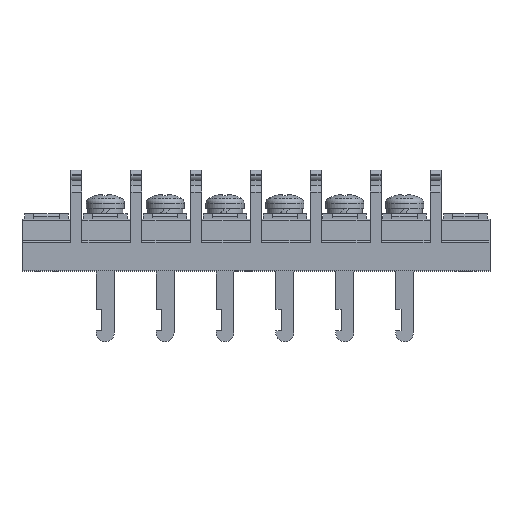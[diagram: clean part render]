
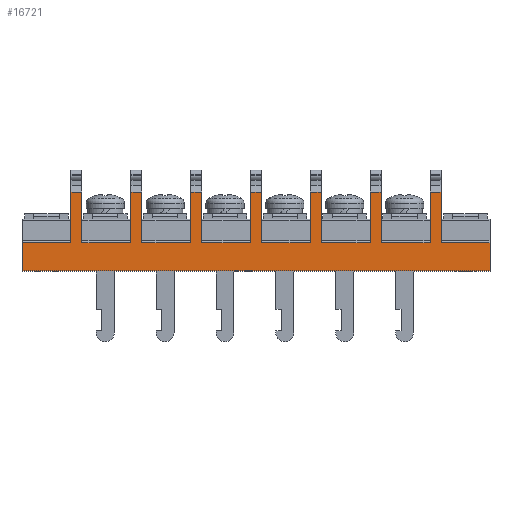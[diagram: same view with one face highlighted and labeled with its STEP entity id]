
A CAD part, top view. The second image highlights one B-rep face of the part: STEP entity #16721.
In plain terms, the highlighted planar face has unit normal (0, 0, 1).
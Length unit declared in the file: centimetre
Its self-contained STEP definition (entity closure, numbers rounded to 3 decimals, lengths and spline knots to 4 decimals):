
#1095=VERTEX_POINT('',#21165);
#1096=VERTEX_POINT('',#21167);
#1113=VERTEX_POINT('',#21201);
#1114=VERTEX_POINT('',#21203);
#1490=VERTEX_POINT('',#22828);
#1500=VERTEX_POINT('',#22848);
#1503=VERTEX_POINT('',#22875);
#1505=VERTEX_POINT('',#22879);
#1550=VERTEX_POINT('',#22984);
#1551=VERTEX_POINT('',#22986);
#1567=VERTEX_POINT('',#23023);
#1925=VERTEX_POINT('',#24609);
#1927=VERTEX_POINT('',#24612);
#2042=VERTEX_POINT('',#24995);
#2076=VERTEX_POINT('',#25079);
#2077=VERTEX_POINT('',#25081);
#2092=VERTEX_POINT('',#25115);
#2188=VERTEX_POINT('',#25465);
#2222=VERTEX_POINT('',#25549);
#2223=VERTEX_POINT('',#25551);
#2238=VERTEX_POINT('',#25585);
#2334=VERTEX_POINT('',#25935);
#2368=VERTEX_POINT('',#26019);
#2369=VERTEX_POINT('',#26021);
#2384=VERTEX_POINT('',#26055);
#2480=VERTEX_POINT('',#26405);
#2514=VERTEX_POINT('',#26489);
#2515=VERTEX_POINT('',#26491);
#2530=VERTEX_POINT('',#26525);
#2626=VERTEX_POINT('',#26875);
#2650=VERTEX_POINT('',#26945);
#2651=VERTEX_POINT('',#26948);
#2767=VECTOR('',#17533,1.);
#2780=VECTOR('',#17555,1.);
#2792=VECTOR('',#17592,1.);
#3235=VECTOR('',#18221,1.);
#3237=VECTOR('',#18229,1.);
#3247=VECTOR('',#18256,1.);
#3284=VECTOR('',#18333,1.);
#3296=VECTOR('',#18365,1.);
#3298=VECTOR('',#18368,1.);
#3735=VECTOR('',#18983,1.);
#3751=VECTOR('',#19024,1.);
#3849=VECTOR('',#19281,1.);
#3879=VECTOR('',#19345,1.);
#3890=VECTOR('',#19374,1.);
#3892=VECTOR('',#19377,1.);
#3994=VECTOR('',#19649,1.);
#4024=VECTOR('',#19713,1.);
#4035=VECTOR('',#19742,1.);
#4037=VECTOR('',#19745,1.);
#4139=VECTOR('',#20017,1.);
#4169=VECTOR('',#20081,1.);
#4180=VECTOR('',#20110,1.);
#4182=VECTOR('',#20113,1.);
#4284=VECTOR('',#20385,1.);
#4314=VECTOR('',#20449,1.);
#4325=VECTOR('',#20478,1.);
#4327=VECTOR('',#20481,1.);
#4429=VECTOR('',#20753,1.);
#4454=VECTOR('',#20814,1.);
#4455=VECTOR('',#20815,1.);
#4461=VECTOR('',#20826,1.);
#4462=VECTOR('',#20828,1.);
#4570=LINE('',#21166,#2767);
#4583=LINE('',#21202,#2780);
#4595=LINE('',#21245,#2792);
#5038=LINE('',#22849,#3235);
#5040=LINE('',#22855,#3237);
#5050=LINE('',#22880,#3247);
#5087=LINE('',#22985,#3284);
#5099=LINE('',#23024,#3296);
#5101=LINE('',#23027,#3298);
#5538=LINE('',#24611,#3735);
#5554=LINE('',#24653,#3751);
#5652=LINE('',#24996,#3849);
#5682=LINE('',#25080,#3879);
#5693=LINE('',#25116,#3890);
#5695=LINE('',#25119,#3892);
#5797=LINE('',#25466,#3994);
#5827=LINE('',#25550,#4024);
#5838=LINE('',#25586,#4035);
#5840=LINE('',#25589,#4037);
#5942=LINE('',#25936,#4139);
#5972=LINE('',#26020,#4169);
#5983=LINE('',#26056,#4180);
#5985=LINE('',#26059,#4182);
#6087=LINE('',#26406,#4284);
#6117=LINE('',#26490,#4314);
#6128=LINE('',#26526,#4325);
#6130=LINE('',#26529,#4327);
#6232=LINE('',#26876,#4429);
#6257=LINE('',#26946,#4454);
#6258=LINE('',#26947,#4455);
#6264=LINE('',#26963,#4461);
#6265=LINE('',#26965,#4462);
#6396=EDGE_CURVE('',#1096,#1095,#4570,.T.);
#6414=EDGE_CURVE('',#1114,#1113,#4583,.T.);
#6438=EDGE_CURVE('',#1096,#1113,#4595,.T.);
#6996=EDGE_CURVE('',#1490,#1500,#5038,.T.);
#6999=EDGE_CURVE('',#1114,#1500,#5040,.T.);
#7011=EDGE_CURVE('',#1505,#1503,#5050,.T.);
#7063=EDGE_CURVE('',#1551,#1550,#5087,.T.);
#7085=EDGE_CURVE('',#1505,#1567,#5099,.T.);
#7087=EDGE_CURVE('',#1551,#1567,#5101,.T.);
#7635=EDGE_CURVE('',#1927,#1925,#5538,.T.);
#7656=EDGE_CURVE('',#1550,#1927,#5554,.T.);
#7808=EDGE_CURVE('',#2042,#1095,#5652,.T.);
#7850=EDGE_CURVE('',#2077,#2076,#5682,.T.);
#7870=EDGE_CURVE('',#2042,#2092,#5693,.T.);
#7872=EDGE_CURVE('',#2077,#2092,#5695,.T.);
#8026=EDGE_CURVE('',#2188,#2076,#5797,.T.);
#8068=EDGE_CURVE('',#2223,#2222,#5827,.T.);
#8088=EDGE_CURVE('',#2188,#2238,#5838,.T.);
#8090=EDGE_CURVE('',#2223,#2238,#5840,.T.);
#8244=EDGE_CURVE('',#2334,#2222,#5942,.T.);
#8286=EDGE_CURVE('',#2369,#2368,#5972,.T.);
#8306=EDGE_CURVE('',#2334,#2384,#5983,.T.);
#8308=EDGE_CURVE('',#2369,#2384,#5985,.T.);
#8462=EDGE_CURVE('',#2480,#2368,#6087,.T.);
#8504=EDGE_CURVE('',#2515,#2514,#6117,.T.);
#8524=EDGE_CURVE('',#2480,#2530,#6128,.T.);
#8526=EDGE_CURVE('',#2515,#2530,#6130,.T.);
#8680=EDGE_CURVE('',#2626,#2514,#6232,.T.);
#8716=EDGE_CURVE('',#2626,#2650,#6257,.T.);
#8717=EDGE_CURVE('',#2651,#1503,#6258,.T.);
#8726=EDGE_CURVE('',#1490,#1925,#6264,.T.);
#8727=EDGE_CURVE('',#2651,#2650,#6265,.T.);
#13551=ORIENTED_EDGE('',*,*,#8726,.F.);
#13552=ORIENTED_EDGE('',*,*,#6996,.T.);
#13553=ORIENTED_EDGE('',*,*,#6999,.F.);
#13554=ORIENTED_EDGE('',*,*,#6414,.T.);
#13555=ORIENTED_EDGE('',*,*,#6438,.F.);
#13556=ORIENTED_EDGE('',*,*,#6396,.T.);
#13557=ORIENTED_EDGE('',*,*,#7808,.F.);
#13558=ORIENTED_EDGE('',*,*,#7870,.T.);
#13559=ORIENTED_EDGE('',*,*,#7872,.F.);
#13560=ORIENTED_EDGE('',*,*,#7850,.T.);
#13561=ORIENTED_EDGE('',*,*,#8026,.F.);
#13562=ORIENTED_EDGE('',*,*,#8088,.T.);
#13563=ORIENTED_EDGE('',*,*,#8090,.F.);
#13564=ORIENTED_EDGE('',*,*,#8068,.T.);
#13565=ORIENTED_EDGE('',*,*,#8244,.F.);
#13566=ORIENTED_EDGE('',*,*,#8306,.T.);
#13567=ORIENTED_EDGE('',*,*,#8308,.F.);
#13568=ORIENTED_EDGE('',*,*,#8286,.T.);
#13569=ORIENTED_EDGE('',*,*,#8462,.F.);
#13570=ORIENTED_EDGE('',*,*,#8524,.T.);
#13571=ORIENTED_EDGE('',*,*,#8526,.F.);
#13572=ORIENTED_EDGE('',*,*,#8504,.T.);
#13573=ORIENTED_EDGE('',*,*,#8680,.F.);
#13574=ORIENTED_EDGE('',*,*,#8716,.T.);
#13575=ORIENTED_EDGE('',*,*,#8727,.F.);
#13576=ORIENTED_EDGE('',*,*,#8717,.T.);
#13577=ORIENTED_EDGE('',*,*,#7011,.F.);
#13578=ORIENTED_EDGE('',*,*,#7085,.T.);
#13579=ORIENTED_EDGE('',*,*,#7087,.F.);
#13580=ORIENTED_EDGE('',*,*,#7063,.T.);
#13581=ORIENTED_EDGE('',*,*,#7656,.T.);
#13582=ORIENTED_EDGE('',*,*,#7635,.T.);
#14775=EDGE_LOOP('',(#13551,#13552,#13553,#13554,#13555,#13556,#13557,#13558,
#13559,#13560,#13561,#13562,#13563,#13564,#13565,#13566,#13567,#13568,#13569,
#13570,#13571,#13572,#13573,#13574,#13575,#13576,#13577,#13578,#13579,#13580,
#13581,#13582));
#15799=FACE_BOUND('',#14775,.T.);
#16721=ADVANCED_FACE('',(#15799),#17359,.T.);
#17359=PLANE('',#28287);
#17533=DIRECTION('',(0.,-1.,0.));
#17555=DIRECTION('',(0.,1.,0.));
#17592=DIRECTION('',(1.,0.,0.));
#18221=DIRECTION('',(0.,1.,0.));
#18229=DIRECTION('',(1.,0.,0.));
#18256=DIRECTION('',(1.,0.,0.));
#18333=DIRECTION('',(0.,-1.,0.));
#18365=DIRECTION('',(0.,1.,0.));
#18368=DIRECTION('',(1.,0.,0.));
#18983=DIRECTION('',(0.,-1.,0.));
#19024=DIRECTION('',(-1.,0.,0.));
#19281=DIRECTION('',(1.,0.,0.));
#19345=DIRECTION('',(0.,-1.,0.));
#19374=DIRECTION('',(0.,1.,0.));
#19377=DIRECTION('',(1.,0.,0.));
#19649=DIRECTION('',(1.,0.,0.));
#19713=DIRECTION('',(0.,-1.,0.));
#19742=DIRECTION('',(0.,1.,0.));
#19745=DIRECTION('',(1.,0.,0.));
#20017=DIRECTION('',(1.,0.,0.));
#20081=DIRECTION('',(0.,-1.,0.));
#20110=DIRECTION('',(0.,1.,0.));
#20113=DIRECTION('',(1.,0.,0.));
#20385=DIRECTION('',(1.,0.,0.));
#20449=DIRECTION('',(0.,-1.,0.));
#20478=DIRECTION('',(0.,1.,0.));
#20481=DIRECTION('',(1.,0.,0.));
#20753=DIRECTION('',(1.,0.,0.));
#20814=DIRECTION('',(0.,1.,0.));
#20815=DIRECTION('',(0.,-1.,0.));
#20826=DIRECTION('',(-1.,0.,0.));
#20827=DIRECTION('',(0.,0.,1.));
#20828=DIRECTION('',(1.,0.,0.));
#21165=CARTESIAN_POINT('',(5.5,0.52,0.85));
#21166=CARTESIAN_POINT('',(5.5,1.45,0.85));
#21167=CARTESIAN_POINT('',(5.5,1.45,0.85));
#21201=CARTESIAN_POINT('',(5.7,1.45,0.85));
#21202=CARTESIAN_POINT('',(5.7,1.45,0.85));
#21203=CARTESIAN_POINT('',(5.7,0.52,0.85));
#21245=CARTESIAN_POINT('',(5.5,1.45,0.85));
#22828=CARTESIAN_POINT('',(6.6,0.,0.85));
#22848=CARTESIAN_POINT('',(6.6,0.52,0.85));
#22849=CARTESIAN_POINT('',(6.6,0.52,0.85));
#22855=CARTESIAN_POINT('',(5.7,0.52,0.85));
#22875=CARTESIAN_POINT('',(0.,0.52,0.85));
#22879=CARTESIAN_POINT('',(-0.9,0.52,0.85));
#22880=CARTESIAN_POINT('',(-0.9,0.52,0.85));
#22984=CARTESIAN_POINT('',(-1.1,0.52,0.85));
#22985=CARTESIAN_POINT('',(-1.1,1.45,0.85));
#22986=CARTESIAN_POINT('',(-1.1,1.45,0.85));
#23023=CARTESIAN_POINT('',(-0.9,1.45,0.85));
#23024=CARTESIAN_POINT('',(-0.9,1.45,0.85));
#23027=CARTESIAN_POINT('',(-1.1,1.45,0.85));
#24609=CARTESIAN_POINT('',(-2.,0.,0.85));
#24611=CARTESIAN_POINT('',(-2.,0.,0.85));
#24612=CARTESIAN_POINT('',(-2.,0.52,0.85));
#24653=CARTESIAN_POINT('',(-1.1,0.52,0.85));
#24995=CARTESIAN_POINT('',(4.6,0.52,0.85));
#24996=CARTESIAN_POINT('',(4.6,0.52,0.85));
#25079=CARTESIAN_POINT('',(4.4,0.52,0.85));
#25080=CARTESIAN_POINT('',(4.4,1.45,0.85));
#25081=CARTESIAN_POINT('',(4.4,1.45,0.85));
#25115=CARTESIAN_POINT('',(4.6,1.45,0.85));
#25116=CARTESIAN_POINT('',(4.6,1.45,0.85));
#25119=CARTESIAN_POINT('',(4.4,1.45,0.85));
#25465=CARTESIAN_POINT('',(3.5,0.52,0.85));
#25466=CARTESIAN_POINT('',(3.5,0.52,0.85));
#25549=CARTESIAN_POINT('',(3.3,0.52,0.85));
#25550=CARTESIAN_POINT('',(3.3,1.45,0.85));
#25551=CARTESIAN_POINT('',(3.3,1.45,0.85));
#25585=CARTESIAN_POINT('',(3.5,1.45,0.85));
#25586=CARTESIAN_POINT('',(3.5,1.45,0.85));
#25589=CARTESIAN_POINT('',(3.3,1.45,0.85));
#25935=CARTESIAN_POINT('',(2.4,0.52,0.85));
#25936=CARTESIAN_POINT('',(2.4,0.52,0.85));
#26019=CARTESIAN_POINT('',(2.2,0.52,0.85));
#26020=CARTESIAN_POINT('',(2.2,1.45,0.85));
#26021=CARTESIAN_POINT('',(2.2,1.45,0.85));
#26055=CARTESIAN_POINT('',(2.4,1.45,0.85));
#26056=CARTESIAN_POINT('',(2.4,1.45,0.85));
#26059=CARTESIAN_POINT('',(2.2,1.45,0.85));
#26405=CARTESIAN_POINT('',(1.3,0.52,0.85));
#26406=CARTESIAN_POINT('',(1.3,0.52,0.85));
#26489=CARTESIAN_POINT('',(1.1,0.52,0.85));
#26490=CARTESIAN_POINT('',(1.1,1.45,0.85));
#26491=CARTESIAN_POINT('',(1.1,1.45,0.85));
#26525=CARTESIAN_POINT('',(1.3,1.45,0.85));
#26526=CARTESIAN_POINT('',(1.3,1.45,0.85));
#26529=CARTESIAN_POINT('',(1.1,1.45,0.85));
#26875=CARTESIAN_POINT('',(0.2,0.52,0.85));
#26876=CARTESIAN_POINT('',(0.2,0.52,0.85));
#26945=CARTESIAN_POINT('',(0.2,1.45,0.85));
#26946=CARTESIAN_POINT('',(0.2,1.45,0.85));
#26947=CARTESIAN_POINT('',(0.,1.45,0.85));
#26948=CARTESIAN_POINT('',(0.,1.45,0.85));
#26963=CARTESIAN_POINT('',(-1.1,0.,0.85));
#26964=CARTESIAN_POINT('',(0.,0.725,0.85));
#26965=CARTESIAN_POINT('',(0.,1.45,0.85));
#28287=AXIS2_PLACEMENT_3D('',#26964,#20827,$);
